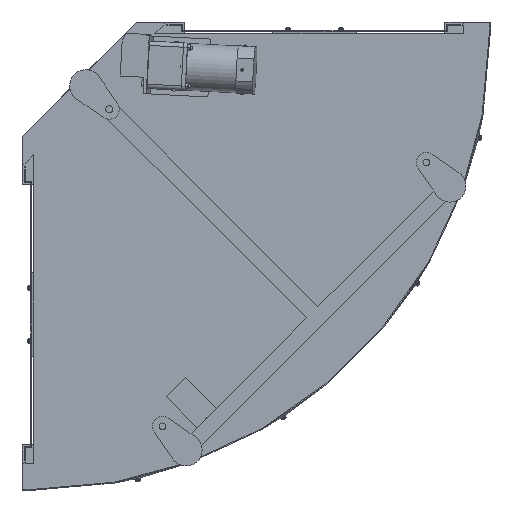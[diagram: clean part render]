
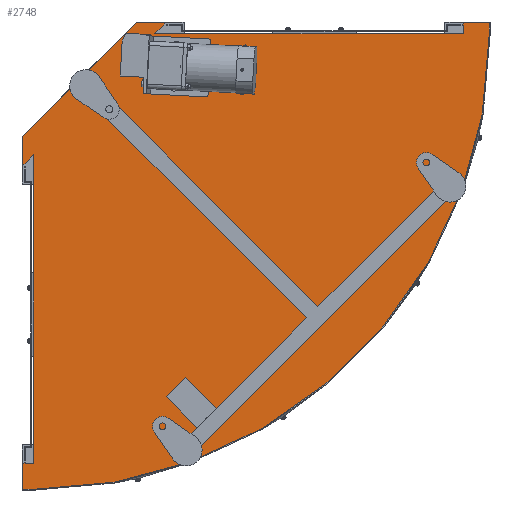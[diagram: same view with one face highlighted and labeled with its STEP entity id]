
A CAD part, front view. The second image highlights one B-rep face of the part: STEP entity #2748.
In plain terms, the highlighted planar face has unit normal (0, -1, 0).
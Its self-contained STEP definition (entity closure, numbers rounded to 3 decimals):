
#2748=ADVANCED_FACE('',(#13284),#13283,.F.);
#13283=PLANE('',#21710);
#13284=FACE_OUTER_BOUND('',#21711,.T.);
#21707=CARTESIAN_POINT('',(-33.4,-157.5,-871.5));
#21708=DIRECTION('',(0.,1.,0.));
#21709=DIRECTION('',(0.,0.,1.));
#21710=AXIS2_PLACEMENT_3D('',#21707,#21708,#21709);
#21711=EDGE_LOOP('',(#28693,#28694,#28695,#28696,#28697,#28698,#28699,#28700,#28701,#28702,#28703,#28704,#28705,#28706));
#28693=ORIENTED_EDGE('',*,*,#31845,.T.);
#28694=ORIENTED_EDGE('',*,*,#31867,.F.);
#28695=ORIENTED_EDGE('',*,*,#31868,.T.);
#28696=ORIENTED_EDGE('',*,*,#31809,.T.);
#28697=ORIENTED_EDGE('',*,*,#31806,.T.);
#28698=ORIENTED_EDGE('',*,*,#31812,.T.);
#28699=ORIENTED_EDGE('',*,*,#31869,.T.);
#28700=ORIENTED_EDGE('',*,*,#31870,.F.);
#28701=ORIENTED_EDGE('',*,*,#31835,.T.);
#28702=ORIENTED_EDGE('',*,*,#31828,.T.);
#28703=ORIENTED_EDGE('',*,*,#31825,.T.);
#28704=ORIENTED_EDGE('',*,*,#31822,.T.);
#28705=ORIENTED_EDGE('',*,*,#31819,.T.);
#28706=ORIENTED_EDGE('',*,*,#31816,.T.);
#31806=EDGE_CURVE('',#47555,#47570,#47577,.T.);
#31809=EDGE_CURVE('',#47584,#47555,#47597,.T.);
#31812=EDGE_CURVE('',#47570,#47610,#47617,.T.);
#31816=EDGE_CURVE('',#47623,#47638,#47645,.T.);
#31819=EDGE_CURVE('',#47651,#47623,#47665,.T.);
#31822=EDGE_CURVE('',#47671,#47651,#47685,.T.);
#31825=EDGE_CURVE('',#47691,#47671,#47705,.T.);
#31828=EDGE_CURVE('',#47711,#47691,#47725,.T.);
#31835=EDGE_CURVE('',#47771,#47711,#47772,.T.);
#31845=EDGE_CURVE('',#47638,#47833,#47840,.T.);
#31867=EDGE_CURVE('',#47983,#47833,#47984,.T.);
#31868=EDGE_CURVE('',#47983,#47584,#47990,.T.);
#31869=EDGE_CURVE('',#47610,#47996,#47997,.T.);
#31870=EDGE_CURVE('',#47771,#47996,#48003,.T.);
#47555=VERTEX_POINT('',#60493);
#47570=VERTEX_POINT('',#60502);
#47577=LINE('',#60506,#60507);
#47584=VERTEX_POINT('',#60510);
#47597=LINE('',#60517,#60518);
#47610=VERTEX_POINT('',#60524);
#47617=LINE('',#60528,#60529);
#47623=VERTEX_POINT('',#60531);
#47638=VERTEX_POINT('',#60540);
#47645=LINE('',#60544,#60545);
#47651=VERTEX_POINT('',#60547);
#47665=LINE('',#60555,#60556);
#47671=VERTEX_POINT('',#60558);
#47685=CIRCLE('',#60570,861.5);
#47691=VERTEX_POINT('',#60571);
#47705=LINE('',#60579,#60580);
#47711=VERTEX_POINT('',#60582);
#47725=LINE('',#60590,#60591);
#47771=VERTEX_POINT('',#60615);
#47772=LINE('',#60616,#60617);
#47833=VERTEX_POINT('',#60652);
#47840=LINE('',#60656,#60657);
#47983=VERTEX_POINT('',#60735);
#47984=LINE('',#60736,#60737);
#47990=LINE('',#60739,#60740);
#47996=VERTEX_POINT('',#60742);
#47997=LINE('',#60743,#60744);
#48003=LINE('',#60746,#60747);
#60493=CARTESIAN_POINT('',(193.163,-157.5,23.4));
#60502=CARTESIAN_POINT('',(-23.4,-157.5,-193.163));
#60506=CARTESIAN_POINT('',(193.163,-157.5,23.4));
#60507=VECTOR('',#60508,306.266);
#60508=DIRECTION('',(-0.707,0.,-0.707));
#60510=CARTESIAN_POINT('',(247.5,-157.5,23.4));
#60517=CARTESIAN_POINT('',(247.5,-157.5,23.4));
#60518=VECTOR('',#60519,54.337);
#60519=DIRECTION('',(-1.,0.,0.));
#60524=CARTESIAN_POINT('',(-23.4,-157.5,-247.5));
#60528=CARTESIAN_POINT('',(-23.4,-157.5,-193.163));
#60529=VECTOR('',#60530,54.337);
#60530=DIRECTION('',(0.,0.,-1.));
#60531=CARTESIAN_POINT('',(861.5,-157.5,23.4));
#60540=CARTESIAN_POINT('',(812.5,-157.5,23.4));
#60544=CARTESIAN_POINT('',(861.5,-157.5,23.4));
#60545=VECTOR('',#60546,49.);
#60546=DIRECTION('',(-1.,0.,0.));
#60547=CARTESIAN_POINT('',(861.5,-157.5,0.));
#60555=CARTESIAN_POINT('',(861.5,-157.5,0.));
#60556=VECTOR('',#60557,23.4);
#60557=DIRECTION('',(0.,0.,1.));
#60558=CARTESIAN_POINT('',(0.,-157.5,-861.5));
#60567=CARTESIAN_POINT('',(0.,-157.5,0.));
#60568=DIRECTION('',(0.,-1.,0.));
#60569=DIRECTION('',(0.,0.,-1.));
#60570=AXIS2_PLACEMENT_3D('',#60567,#60568,#60569);
#60571=CARTESIAN_POINT('',(-23.4,-157.5,-861.5));
#60579=CARTESIAN_POINT('',(-23.4,-157.5,-861.5));
#60580=VECTOR('',#60581,23.4);
#60581=DIRECTION('',(1.,0.,0.));
#60582=CARTESIAN_POINT('',(-23.4,-157.5,-812.5));
#60590=CARTESIAN_POINT('',(-23.4,-157.5,-812.5));
#60591=VECTOR('',#60592,49.);
#60592=DIRECTION('',(0.,0.,-1.));
#60615=CARTESIAN_POINT('',(-2.727,-157.5,-812.5));
#60616=CARTESIAN_POINT('',(-2.727,-157.5,-812.5));
#60617=VECTOR('',#60618,20.673);
#60618=DIRECTION('',(-1.,0.,0.));
#60652=CARTESIAN_POINT('',(812.5,-157.5,2.727));
#60656=CARTESIAN_POINT('',(812.5,-157.5,23.4));
#60657=VECTOR('',#60658,20.673);
#60658=DIRECTION('',(0.,0.,-1.));
#60735=CARTESIAN_POINT('',(226.811,-157.5,2.711));
#60736=CARTESIAN_POINT('',(226.811,-157.5,2.711));
#60737=VECTOR('',#60738,585.689);
#60738=DIRECTION('',(1.,0.,0.));
#60739=CARTESIAN_POINT('',(226.811,-157.5,2.711));
#60740=VECTOR('',#60741,29.258);
#60741=DIRECTION('',(0.707,0.,0.707));
#60742=CARTESIAN_POINT('',(-2.711,-157.5,-226.811));
#60743=CARTESIAN_POINT('',(-23.4,-157.5,-247.5));
#60744=VECTOR('',#60745,29.258);
#60745=DIRECTION('',(0.707,0.,0.707));
#60746=CARTESIAN_POINT('',(-2.727,-157.5,-812.5));
#60747=VECTOR('',#60748,585.689);
#60748=DIRECTION('',(0.,0.,1.));
